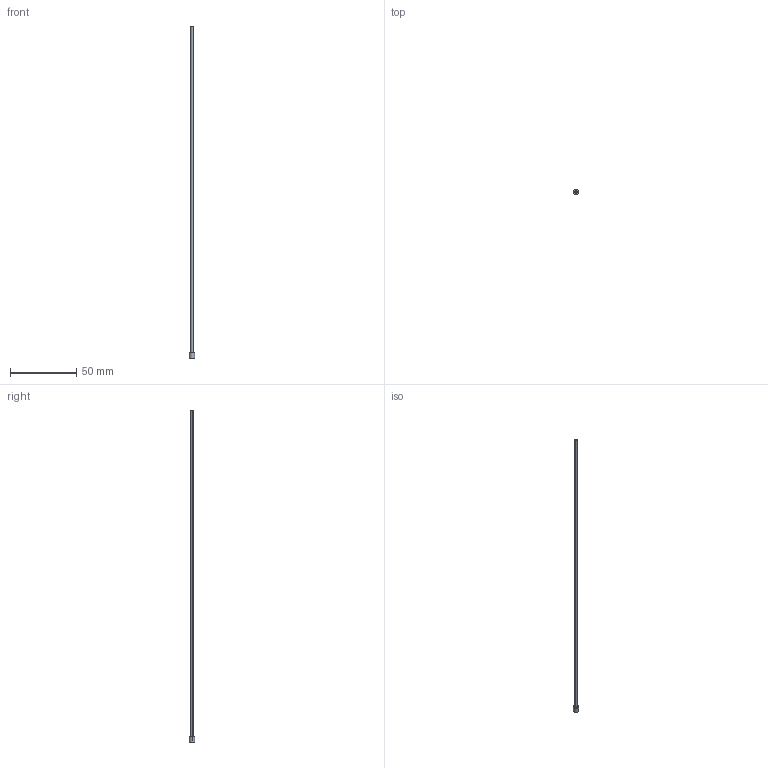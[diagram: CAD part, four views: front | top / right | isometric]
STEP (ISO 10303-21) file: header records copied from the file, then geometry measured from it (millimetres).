
FILE_DESCRIPTION (( 'STEP AP214' ), '1' );
FILE_NAME ('EPHE-B1.6-250.step', '2024-04-11T21:21:49', ( '' ), ( '' ), 'SwSTEP 2.0', 'SolidWorks 2017', '' );
FILE_SCHEMA (( 'AUTOMOTIVE_DESIGN' ));
Length unit declared in the file: millimetre
Products named in the file (1): EPHE-B1.6-250
Bounding box: 4 x 4 x 250 mm (x, y, z)
Volume: 545 mm3; surface area: 1311.3 mm2
Topology: 1 solids, 1 shells, 9 faces, 16 edges, 10 vertices
Faces by surface type: cylinder 4, plane 3, torus 2
Entity records: 260 total; most frequent: DIRECTION 48, CARTESIAN_POINT 36, ORIENTED_EDGE 32, AXIS2_PLACEMENT_3D 22, EDGE_CURVE 16, CIRCLE 12, VERTEX_POINT 10, EDGE_LOOP 10
